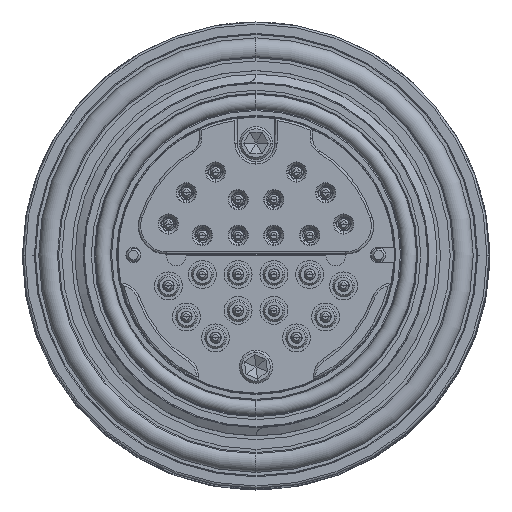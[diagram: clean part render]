
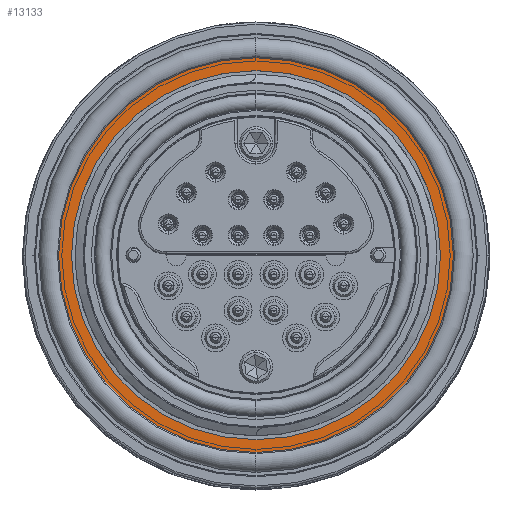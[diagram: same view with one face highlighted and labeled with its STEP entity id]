
A CAD part, top view. The second image highlights one B-rep face of the part: STEP entity #13133.
In plain terms, the highlighted planar face has unit normal (0, 0, 1).
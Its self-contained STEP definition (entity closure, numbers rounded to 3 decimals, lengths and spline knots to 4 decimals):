
#422 = CARTESIAN_POINT ( 'NONE',  ( 0., 0., -0.515 ) ) ;
#1790 = EDGE_CURVE ( 'NONE', #18917, #14593, #101009, .T. ) ;
#6696 = VERTEX_POINT ( 'NONE', #131588 ) ;
#7061 = EDGE_CURVE ( 'NONE', #14593, #18917, #96621, .T. ) ;
#8713 = FACE_OUTER_BOUND ( 'NONE', #19035, .T. ) ;
#13133 = ADVANCED_FACE ( 'NONE', ( #108578, #8713 ), #136569, .F. ) ;
#13493 = ORIENTED_EDGE ( 'NONE', *, *, #1790, .T. ) ;
#14593 = VERTEX_POINT ( 'NONE', #123800 ) ;
#16905 = ORIENTED_EDGE ( 'NONE', *, *, #7061, .T. ) ;
#18917 = VERTEX_POINT ( 'NONE', #129641 ) ;
#19035 = EDGE_LOOP ( 'NONE', ( #13493, #16905 ) ) ;
#23708 = DIRECTION ( 'NONE',  ( 0., 0., 1. ) ) ;
#32103 = DIRECTION ( 'NONE',  ( 1., 0., 0. ) ) ;
#33744 = AXIS2_PLACEMENT_3D ( 'NONE', #92347, #131997, #32103 ) ;
#36676 = DIRECTION ( 'NONE',  ( -1., 0., 0. ) ) ;
#43569 = EDGE_LOOP ( 'NONE', ( #49713, #83786 ) ) ;
#49713 = ORIENTED_EDGE ( 'NONE', *, *, #78481, .F. ) ;
#52739 = AXIS2_PLACEMENT_3D ( 'NONE', #136623, #70991, #68817 ) ;
#53176 = DIRECTION ( 'NONE',  ( 0., 0., -1. ) ) ;
#58377 = VERTEX_POINT ( 'NONE', #90411 ) ;
#61334 = DIRECTION ( 'NONE',  ( 0., 0., 1. ) ) ;
#64398 = AXIS2_PLACEMENT_3D ( 'NONE', #422, #23708, #101018 ) ;
#68817 = DIRECTION ( 'NONE',  ( 1., 0., 0. ) ) ;
#70728 = AXIS2_PLACEMENT_3D ( 'NONE', #83938, #61334, #96296 ) ;
#70991 = DIRECTION ( 'NONE',  ( 0., 0., 1. ) ) ;
#78481 = EDGE_CURVE ( 'NONE', #58377, #6696, #115715, .T. ) ;
#79266 = EDGE_CURVE ( 'NONE', #6696, #58377, #97083, .T. ) ;
#81167 = CARTESIAN_POINT ( 'NONE',  ( 0., 0.8825, -0.515 ) ) ;
#83786 = ORIENTED_EDGE ( 'NONE', *, *, #79266, .F. ) ;
#83938 = CARTESIAN_POINT ( 'NONE',  ( 0., 0., -0.515 ) ) ;
#90411 = CARTESIAN_POINT ( 'NONE',  ( 0.825, 0., -0.515 ) ) ;
#92347 = CARTESIAN_POINT ( 'NONE',  ( 0., 0., -0.515 ) ) ;
#92449 = AXIS2_PLACEMENT_3D ( 'NONE', #81167, #53176, #36676 ) ;
#96296 = DIRECTION ( 'NONE',  ( 1., 0., 0. ) ) ;
#96621 = CIRCLE ( 'NONE', #33744, 0.8825 ) ;
#97083 = CIRCLE ( 'NONE', #64398, 0.825 ) ;
#101009 = CIRCLE ( 'NONE', #70728, 0.8825 ) ;
#101018 = DIRECTION ( 'NONE',  ( 1., 0., 0. ) ) ;
#108578 = FACE_BOUND ( 'NONE', #43569, .T. ) ;
#115715 = CIRCLE ( 'NONE', #52739, 0.825 ) ;
#123800 = CARTESIAN_POINT ( 'NONE',  ( -0.8825, 0., -0.515 ) ) ;
#129641 = CARTESIAN_POINT ( 'NONE',  ( 0.8825, 0., -0.515 ) ) ;
#131588 = CARTESIAN_POINT ( 'NONE',  ( -0.825, 0., -0.515 ) ) ;
#131997 = DIRECTION ( 'NONE',  ( 0., 0., 1. ) ) ;
#136569 = PLANE ( 'NONE',  #92449 ) ;
#136623 = CARTESIAN_POINT ( 'NONE',  ( 0., 0., -0.515 ) ) ;
